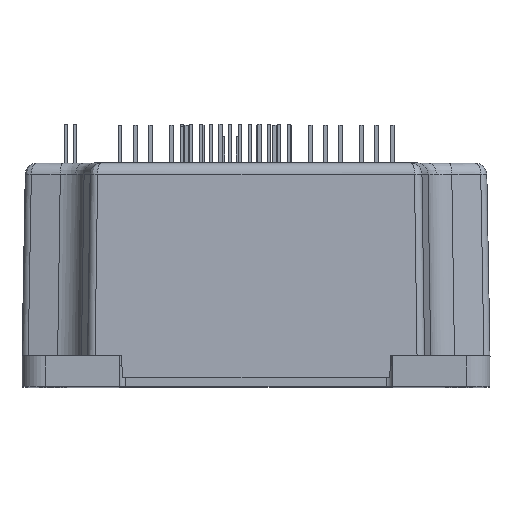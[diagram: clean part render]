
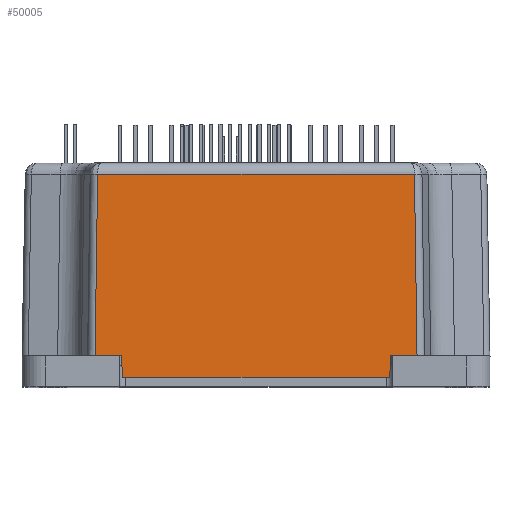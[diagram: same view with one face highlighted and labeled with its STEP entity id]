
A CAD part, top view. The second image highlights one B-rep face of the part: STEP entity #50005.
In plain terms, the highlighted planar face has unit normal (0, 0.018, 1).
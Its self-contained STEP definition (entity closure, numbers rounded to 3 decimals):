
#7702 =( BOUNDED_CURVE ( )  B_SPLINE_CURVE ( 3, ( #16652, #16650, #16649, #16653 ),
 .UNSPECIFIED., .F., .F. ) 
 B_SPLINE_CURVE_WITH_KNOTS ( ( 4, 4 ),
 ( 4.73, 6.283 ),
 .UNSPECIFIED. ) 
 CURVE ( )  GEOMETRIC_REPRESENTATION_ITEM ( )  RATIONAL_B_SPLINE_CURVE ( ( 1., 0.809, 0.809, 1. ) ) 
 REPRESENTATION_ITEM ( '' )  );
#7707 =( BOUNDED_CURVE ( )  B_SPLINE_CURVE ( 3, ( #16645, #16639, #16633, #16647 ),
 .UNSPECIFIED., .F., .F. ) 
 B_SPLINE_CURVE_WITH_KNOTS ( ( 4, 4 ),
 ( 0., 1.553 ),
 .UNSPECIFIED. ) 
 CURVE ( )  GEOMETRIC_REPRESENTATION_ITEM ( )  RATIONAL_B_SPLINE_CURVE ( ( 1., 0.809, 0.809, 1. ) ) 
 REPRESENTATION_ITEM ( '' )  );
#15206 = CARTESIAN_POINT ( 'NONE',  ( -22.803, -9.652, 36.584 ) ) ;
#15207 = DIRECTION ( 'NONE',  ( -1., 0., 0. ) ) ;
#15485 = LINE ( 'NONE', #15206, #15488 ) ;
#15488 = VECTOR ( 'NONE', #15207, 1000. ) ;
#15553 = LINE ( 'NONE', #16433, #15554 ) ;
#15554 = VECTOR ( 'NONE', #16434, 1000. ) ;
#15666 = VECTOR ( 'NONE', #16655, 1000. ) ;
#15670 = LINE ( 'NONE', #16646, #15672 ) ;
#15672 = VECTOR ( 'NONE', #16648, 1000. ) ;
#15673 = LINE ( 'NONE', #16654, #15666 ) ;
#15675 = LINE ( 'NONE', #16656, #15677 ) ;
#15676 = LINE ( 'NONE', #16658, #15679 ) ;
#15677 = VECTOR ( 'NONE', #16657, 1000. ) ;
#15679 = VECTOR ( 'NONE', #16659, 1000. ) ;
#16104 = LINE ( 'NONE', #18265, #16107 ) ;
#16107 = VECTOR ( 'NONE', #18268, 1000. ) ;
#16111 = LINE ( 'NONE', #18317, #16127 ) ;
#16127 = VECTOR ( 'NONE', #18333, 1000. ) ;
#16433 = CARTESIAN_POINT ( 'NONE',  ( -22.803, -9.652, 36.584 ) ) ;
#16434 = DIRECTION ( 'NONE',  ( -1., 0., 0. ) ) ;
#16633 = CARTESIAN_POINT ( 'NONE',  ( 16.449, -12.372, 36.632 ) ) ;
#16639 = CARTESIAN_POINT ( 'NONE',  ( 16.366, -12.452, 36.633 ) ) ;
#16645 = CARTESIAN_POINT ( 'NONE',  ( 16.251, -12.452, 36.633 ) ) ;
#16646 = CARTESIAN_POINT ( 'NONE',  ( 16.447, -12.452, 36.633 ) ) ;
#16647 = CARTESIAN_POINT ( 'NONE',  ( 16.451, -12.256, 36.63 ) ) ;
#16648 = DIRECTION ( 'NONE',  ( -1., 0., 0. ) ) ;
#16649 = CARTESIAN_POINT ( 'NONE',  ( -18.372, -12.452, 36.633 ) ) ;
#16650 = CARTESIAN_POINT ( 'NONE',  ( -18.454, -12.372, 36.632 ) ) ;
#16652 = CARTESIAN_POINT ( 'NONE',  ( -18.456, -12.256, 36.63 ) ) ;
#16653 = CARTESIAN_POINT ( 'NONE',  ( -18.256, -12.452, 36.633 ) ) ;
#16654 = CARTESIAN_POINT ( 'NONE',  ( -21.99, -9.664, 36.584 ) ) ;
#16655 = DIRECTION ( 'NONE',  ( -0.014, -1., 0.017 ) ) ;
#16656 = CARTESIAN_POINT ( 'NONE',  ( -22.446, 14.014, 36.171 ) ) ;
#16657 = DIRECTION ( 'NONE',  ( -1., 0., 0. ) ) ;
#16658 = CARTESIAN_POINT ( 'NONE',  ( 19.976, -9.046, 36.574 ) ) ;
#16659 = DIRECTION ( 'NONE',  ( -0.014, 1., -0.017 ) ) ;
#18265 = CARTESIAN_POINT ( 'NONE',  ( -18.503, -9.577, 36.583 ) ) ;
#18268 = DIRECTION ( 'NONE',  ( 0.017, -1., 0.017 ) ) ;
#18317 = CARTESIAN_POINT ( 'NONE',  ( 16.484, -10.338, 36.596 ) ) ;
#18333 = DIRECTION ( 'NONE',  ( -0.017, -1., 0.017 ) ) ;
#24882 = AXIS2_PLACEMENT_3D ( 'NONE', #29814, #29823, #29824 ) ;
#29814 = CARTESIAN_POINT ( 'NONE',  ( -22.803, -9.652, 36.584 ) ) ;
#29821 = PLANE ( 'NONE',  #24882 ) ;
#29823 = DIRECTION ( 'NONE',  ( 0., 0.017, 1. ) ) ;
#29824 = DIRECTION ( 'NONE',  ( 0., -1., 0.017 ) ) ;
#30133 = FACE_OUTER_BOUND ( 'NONE', #50394, .T. ) ;
#38144 = CARTESIAN_POINT ( 'NONE',  ( 16.451, -12.256, 36.63 ) ) ;
#38212 = CARTESIAN_POINT ( 'NONE',  ( -21.99, -9.652, 36.584 ) ) ;
#38264 = CARTESIAN_POINT ( 'NONE',  ( -21.654, 14.014, 36.171 ) ) ;
#38278 = CARTESIAN_POINT ( 'NONE',  ( 16.251, -12.452, 36.633 ) ) ;
#38279 = CARTESIAN_POINT ( 'NONE',  ( -18.256, -12.452, 36.633 ) ) ;
#38287 = CARTESIAN_POINT ( 'NONE',  ( -18.502, -9.652, 36.584 ) ) ;
#38313 = CARTESIAN_POINT ( 'NONE',  ( 19.984, -9.652, 36.584 ) ) ;
#38314 = CARTESIAN_POINT ( 'NONE',  ( 19.648, 14.014, 36.171 ) ) ;
#38601 = CARTESIAN_POINT ( 'NONE',  ( 16.496, -9.652, 36.584 ) ) ;
#38653 = CARTESIAN_POINT ( 'NONE',  ( -18.456, -12.256, 36.63 ) ) ;
#40978 = EDGE_CURVE ( 'NONE', #53950, #54135, #15485, .T. ) ;
#41100 = EDGE_CURVE ( 'NONE', #53924, #53849, #15553, .T. ) ;
#41292 = EDGE_CURVE ( 'NONE', #53915, #53781, #7707, .T. ) ;
#41294 = EDGE_CURVE ( 'NONE', #53915, #53916, #15670, .T. ) ;
#41296 = EDGE_CURVE ( 'NONE', #54163, #53916, #7702, .T. ) ;
#41299 = EDGE_CURVE ( 'NONE', #53901, #53849, #15673, .T. ) ;
#41301 = EDGE_CURVE ( 'NONE', #53951, #53901, #15675, .T. ) ;
#41303 = EDGE_CURVE ( 'NONE', #53950, #53951, #15676, .T. ) ;
#42008 = EDGE_CURVE ( 'NONE', #53924, #54163, #16104, .T. ) ;
#42036 = EDGE_CURVE ( 'NONE', #54135, #53781, #16111, .T. ) ;
#45216 = ORIENTED_EDGE ( 'NONE', *, *, #40978, .F. ) ;
#45217 = ORIENTED_EDGE ( 'NONE', *, *, #41303, .T. ) ;
#45219 = ORIENTED_EDGE ( 'NONE', *, *, #41301, .T. ) ;
#45221 = ORIENTED_EDGE ( 'NONE', *, *, #41299, .T. ) ;
#45223 = ORIENTED_EDGE ( 'NONE', *, *, #41100, .F. ) ;
#45225 = ORIENTED_EDGE ( 'NONE', *, *, #42008, .T. ) ;
#45227 = ORIENTED_EDGE ( 'NONE', *, *, #41296, .T. ) ;
#45229 = ORIENTED_EDGE ( 'NONE', *, *, #41294, .F. ) ;
#45230 = ORIENTED_EDGE ( 'NONE', *, *, #41292, .T. ) ;
#45232 = ORIENTED_EDGE ( 'NONE', *, *, #42036, .F. ) ;
#50005 = ADVANCED_FACE ( 'NONE', ( #30133 ), #29821, .T. ) ;
#50394 = EDGE_LOOP ( 'NONE', ( #45216, #45217, #45219, #45221, #45223, #45225, #45227, #45229, #45230, #45232 ) ) ;
#53781 = VERTEX_POINT ( 'NONE', #38144 ) ;
#53849 = VERTEX_POINT ( 'NONE', #38212 ) ;
#53901 = VERTEX_POINT ( 'NONE', #38264 ) ;
#53915 = VERTEX_POINT ( 'NONE', #38278 ) ;
#53916 = VERTEX_POINT ( 'NONE', #38279 ) ;
#53924 = VERTEX_POINT ( 'NONE', #38287 ) ;
#53950 = VERTEX_POINT ( 'NONE', #38313 ) ;
#53951 = VERTEX_POINT ( 'NONE', #38314 ) ;
#54135 = VERTEX_POINT ( 'NONE', #38601 ) ;
#54163 = VERTEX_POINT ( 'NONE', #38653 ) ;
